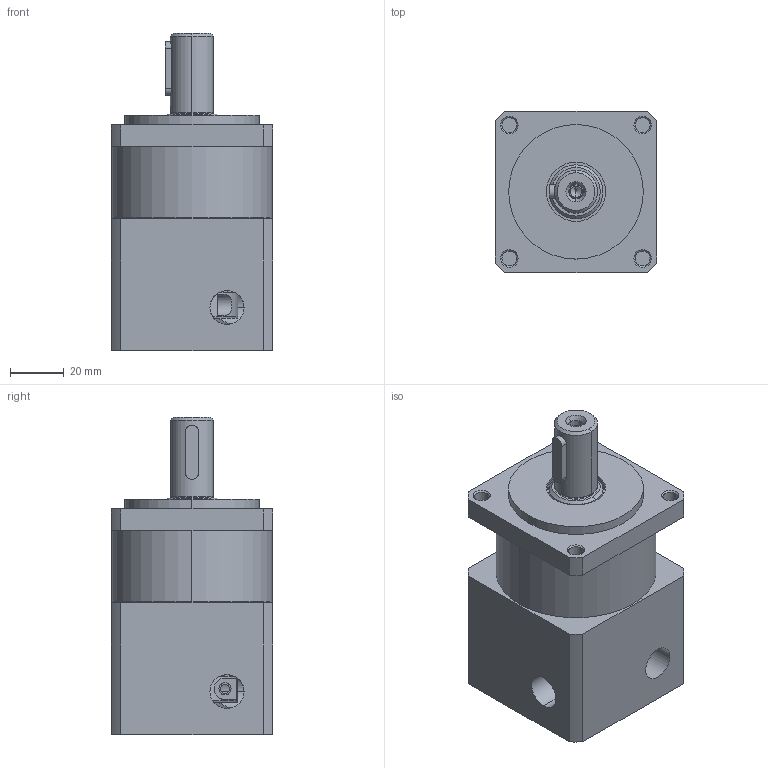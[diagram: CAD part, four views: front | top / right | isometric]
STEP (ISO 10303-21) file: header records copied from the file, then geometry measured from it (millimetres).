
FILE_DESCRIPTION (( 'STEP AP203' ), '1' );
FILE_NAME ('GNP60L1-14-50-70-M5(出力軸Φ16).STEP', '2012-10-15T02:39:10', ( 'user' ), ( 'SYNNEX' ), 'SwSTEP 2.0', 'SolidWorks 2008', '' );
FILE_SCHEMA (( 'CONFIG_CONTROL_DESIGN' ));
Length unit declared in the file: millimetre
Products named in the file (1): GNP60L1-14-50-70-M5(¥X¤O¶b£X16)
Bounding box: 60 x 60 x 117.85 mm (x, y, z)
Volume: 193850.5 mm3; surface area: 75591.6 mm2
Topology: 10 solids, 10 shells, 515 faces, 1164 edges, 702 vertices
Faces by surface type: cylinder 222, cone 110, plane 104, torus 75, bspline 4
Entity records: 15661 total; most frequent: CARTESIAN_POINT 3620, DIRECTION 2800, ORIENTED_EDGE 2268, AXIS2_PLACEMENT_3D 1190, EDGE_CURVE 1134, VERTEX_POINT 702, CIRCLE 678, EDGE_LOOP 632
